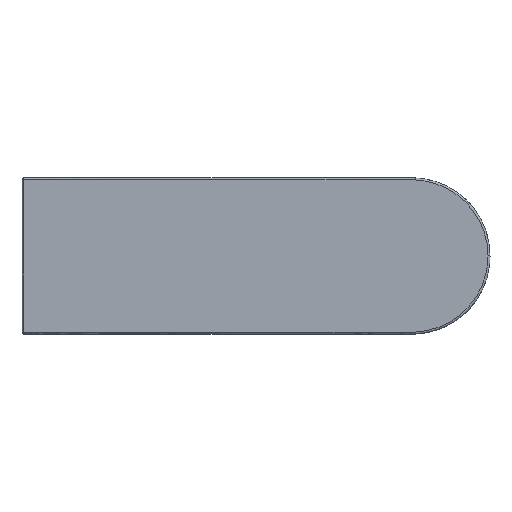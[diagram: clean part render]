
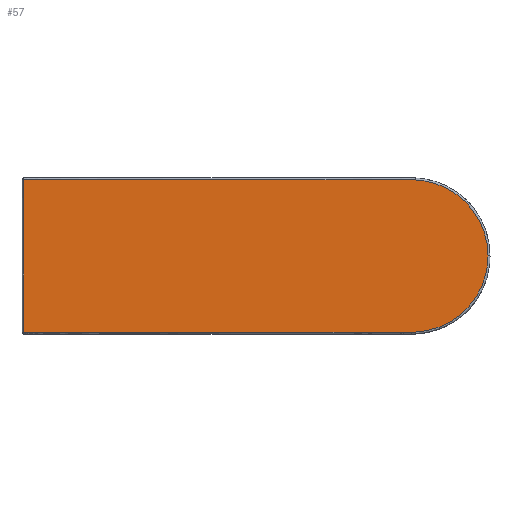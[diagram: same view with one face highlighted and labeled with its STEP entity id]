
A CAD part, top view. The second image highlights one B-rep face of the part: STEP entity #57.
In plain terms, the highlighted planar face has unit normal (0, 0, 1).
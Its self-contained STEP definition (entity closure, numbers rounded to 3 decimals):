
#15=B_SPLINE_CURVE_WITH_KNOTS('',1,(#992,#993),.UNSPECIFIED.,.F.,.F.,(2,
2),(5.,1007.726),.UNSPECIFIED.);
#57=ADVANCED_FACE('',(#92),#424,.T.);
#92=FACE_OUTER_BOUND('',#127,.T.);
#127=EDGE_LOOP('',(#195,#196,#197,#198,#199));
#195=ORIENTED_EDGE('',*,*,#295,.T.);
#196=ORIENTED_EDGE('',*,*,#327,.T.);
#197=ORIENTED_EDGE('',*,*,#325,.T.);
#198=ORIENTED_EDGE('',*,*,#323,.F.);
#199=ORIENTED_EDGE('',*,*,#313,.T.);
#295=EDGE_CURVE('',#397,#398,#15,.T.);
#313=EDGE_CURVE('',#401,#397,#362,.T.);
#323=EDGE_CURVE('',#401,#400,#371,.T.);
#325=EDGE_CURVE('',#399,#400,#372,.T.);
#327=EDGE_CURVE('',#398,#399,#374,.T.);
#362=(
BOUNDED_CURVE()
B_SPLINE_CURVE(1,(#1035,#1036),.UNSPECIFIED.,.F.,.F.)
B_SPLINE_CURVE_WITH_KNOTS((2,2),(5.,395.),
 .UNSPECIFIED.)
CURVE()
GEOMETRIC_REPRESENTATION_ITEM()
RATIONAL_B_SPLINE_CURVE((1.,1.))
REPRESENTATION_ITEM('')
);
#371=(
BOUNDED_CURVE()
B_SPLINE_CURVE(1,(#1072,#1073),.UNSPECIFIED.,.F.,.F.)
B_SPLINE_CURVE_WITH_KNOTS((2,2),(5.,1007.73),
 .UNSPECIFIED.)
CURVE()
GEOMETRIC_REPRESENTATION_ITEM()
RATIONAL_B_SPLINE_CURVE((1.,1.))
REPRESENTATION_ITEM('')
);
#372=(
BOUNDED_CURVE()
B_SPLINE_CURVE(3,(#1086,#1087,#1088,#1089,#1090,#1091,#1092,#1093,#1094,
#1095,#1096,#1097,#1098,#1099,#1100,#1101,#1102,#1103,#1104,#1105,#1106,
#1107,#1108,#1109,#1110,#1111,#1112,#1113,#1114,#1115,#1116,#1117,#1118,
#1119),.UNSPECIFIED.,.F.,.F.)
B_SPLINE_CURVE_WITH_KNOTS((4,3,3,3,3,3,3,3,3,3,3,4),(0.,
22.507,49.947,78.472,107.222,136.483,
166.546,196.453,225.268,253.311,280.889,
298.664),.UNSPECIFIED.)
CURVE()
GEOMETRIC_REPRESENTATION_ITEM()
RATIONAL_B_SPLINE_CURVE((1.,1.,1.,1.,1.,1.,
1.,1.,1.,1.,
1.,1.,1.,1.,1.,1.,1.,1.,1.,
1.,1.,1.,1.,1.,1.,1.,1.,1.,
1.,1.,1.,1.,1.,1.))
REPRESENTATION_ITEM('')
);
#374=(
BOUNDED_CURVE()
B_SPLINE_CURVE(3,(#1123,#1124,#1125,#1126,#1127,#1128,#1129,#1130,#1131,
#1132,#1133,#1134,#1135,#1136,#1137,#1138,#1139,#1140,#1141,#1142,#1143,
#1144,#1145,#1146,#1147,#1148,#1149,#1150,#1151,#1152,#1153),
 .UNSPECIFIED.,.F.,.F.)
B_SPLINE_CURVE_WITH_KNOTS((4,3,3,3,3,3,3,3,3,3,4),(0.094,15.127,
47.177,80.637,115.085,150.013,184.868,
219.107,252.238,283.867,298.762),
 .UNSPECIFIED.)
CURVE()
GEOMETRIC_REPRESENTATION_ITEM()
RATIONAL_B_SPLINE_CURVE((1.,1.,1.,1.,1.,1.,1.,1.,1.,1.,1.,1.,1.,1.,1.,1.,
1.,1.,1.,1.,1.,1.,1.,1.,1.,
1.,1.,1.,1.,
1.,1.))
REPRESENTATION_ITEM('')
);
#397=VERTEX_POINT('',#964);
#398=VERTEX_POINT('',#965);
#399=VERTEX_POINT('',#966);
#400=VERTEX_POINT('',#967);
#401=VERTEX_POINT('',#968);
#424=PLANE('',#478);
#478=AXIS2_PLACEMENT_3D('',#650,#492,$);
#492=DIRECTION('',(0.,0.,1.));
#650=CARTESIAN_POINT('',(7737.53,-1257.923,430.));
#964=CARTESIAN_POINT('',(7742.53,-1252.923,430.));
#965=CARTESIAN_POINT('',(8745.256,-1252.923,430.));
#966=CARTESIAN_POINT('',(8932.53,-1057.923,430.));
#967=CARTESIAN_POINT('',(8745.26,-862.923,430.));
#968=CARTESIAN_POINT('',(7742.53,-862.923,430.));
#992=CARTESIAN_POINT('',(7742.53,-1252.923,430.));
#993=CARTESIAN_POINT('',(8745.256,-1252.923,430.));
#1035=CARTESIAN_POINT('',(7742.53,-862.923,430.));
#1036=CARTESIAN_POINT('',(7742.53,-1252.923,430.));
#1072=CARTESIAN_POINT('',(7742.53,-862.923,430.));
#1073=CARTESIAN_POINT('',(8745.26,-862.923,430.));
#1086=CARTESIAN_POINT('',(8932.53,-1057.923,430.));
#1087=CARTESIAN_POINT('',(8932.53,-1050.421,430.));
#1088=CARTESIAN_POINT('',(8932.097,-1042.918,430.));
#1089=CARTESIAN_POINT('',(8931.233,-1035.466,430.));
#1090=CARTESIAN_POINT('',(8930.181,-1026.38,430.));
#1091=CARTESIAN_POINT('',(8928.489,-1017.368,430.));
#1092=CARTESIAN_POINT('',(8926.173,-1008.52,430.));
#1093=CARTESIAN_POINT('',(8923.766,-999.321,430.));
#1094=CARTESIAN_POINT('',(8920.686,-990.299,430.));
#1095=CARTESIAN_POINT('',(8916.965,-981.549,430.));
#1096=CARTESIAN_POINT('',(8913.214,-972.73,430.));
#1097=CARTESIAN_POINT('',(8908.813,-964.187,430.));
#1098=CARTESIAN_POINT('',(8903.809,-956.014,430.));
#1099=CARTESIAN_POINT('',(8898.716,-947.696,430.));
#1100=CARTESIAN_POINT('',(8892.998,-939.761,430.));
#1101=CARTESIAN_POINT('',(8886.72,-932.297,430.));
#1102=CARTESIAN_POINT('',(8880.269,-924.628,430.));
#1103=CARTESIAN_POINT('',(8873.226,-917.457,430.));
#1104=CARTESIAN_POINT('',(8865.675,-910.868,430.));
#1105=CARTESIAN_POINT('',(8858.163,-904.314,430.));
#1106=CARTESIAN_POINT('',(8850.149,-898.337,430.));
#1107=CARTESIAN_POINT('',(8841.724,-893.007,430.));
#1108=CARTESIAN_POINT('',(8833.608,-887.871,430.));
#1109=CARTESIAN_POINT('',(8825.112,-883.335,430.));
#1110=CARTESIAN_POINT('',(8816.328,-879.449,430.));
#1111=CARTESIAN_POINT('',(8807.78,-875.667,430.));
#1112=CARTESIAN_POINT('',(8798.959,-872.501,430.));
#1113=CARTESIAN_POINT('',(8789.957,-869.982,430.));
#1114=CARTESIAN_POINT('',(8781.104,-867.505,430.));
#1115=CARTESIAN_POINT('',(8772.076,-865.655,430.));
#1116=CARTESIAN_POINT('',(8762.963,-864.449,430.));
#1117=CARTESIAN_POINT('',(8757.089,-863.672,430.));
#1118=CARTESIAN_POINT('',(8751.18,-863.163,430.));
#1119=CARTESIAN_POINT('',(8745.26,-862.923,430.));
#1123=CARTESIAN_POINT('',(8745.256,-1252.923,430.));
#1124=CARTESIAN_POINT('',(8750.263,-1252.721,430.));
#1125=CARTESIAN_POINT('',(8755.262,-1252.326,430.));
#1126=CARTESIAN_POINT('',(8760.238,-1251.739,430.));
#1127=CARTESIAN_POINT('',(8770.847,-1250.487,430.));
#1128=CARTESIAN_POINT('',(8781.354,-1248.362,430.));
#1129=CARTESIAN_POINT('',(8791.616,-1245.392,430.));
#1130=CARTESIAN_POINT('',(8802.33,-1242.292,430.));
#1131=CARTESIAN_POINT('',(8812.778,-1238.272,430.));
#1132=CARTESIAN_POINT('',(8822.805,-1233.389,430.));
#1133=CARTESIAN_POINT('',(8833.129,-1228.362,430.));
#1134=CARTESIAN_POINT('',(8843.008,-1222.422,430.));
#1135=CARTESIAN_POINT('',(8852.289,-1215.66,430.));
#1136=CARTESIAN_POINT('',(8861.699,-1208.805,430.));
#1137=CARTESIAN_POINT('',(8870.494,-1201.105,430.));
#1138=CARTESIAN_POINT('',(8878.534,-1192.683,430.));
#1139=CARTESIAN_POINT('',(8886.556,-1184.28,430.));
#1140=CARTESIAN_POINT('',(8893.826,-1175.157,430.));
#1141=CARTESIAN_POINT('',(8900.229,-1165.462,430.));
#1142=CARTESIAN_POINT('',(8906.517,-1155.938,430.));
#1143=CARTESIAN_POINT('',(8911.968,-1145.861,430.));
#1144=CARTESIAN_POINT('',(8916.498,-1135.386,430.));
#1145=CARTESIAN_POINT('',(8920.882,-1125.249,430.));
#1146=CARTESIAN_POINT('',(8924.403,-1114.74,430.));
#1147=CARTESIAN_POINT('',(8927.011,-1104.008,430.));
#1148=CARTESIAN_POINT('',(8929.5,-1093.764,430.));
#1149=CARTESIAN_POINT('',(8931.158,-1083.317,430.));
#1150=CARTESIAN_POINT('',(8931.962,-1072.805,430.));
#1151=CARTESIAN_POINT('',(8932.34,-1067.854,430.));
#1152=CARTESIAN_POINT('',(8932.53,-1062.889,430.));
#1153=CARTESIAN_POINT('',(8932.53,-1057.923,430.));
